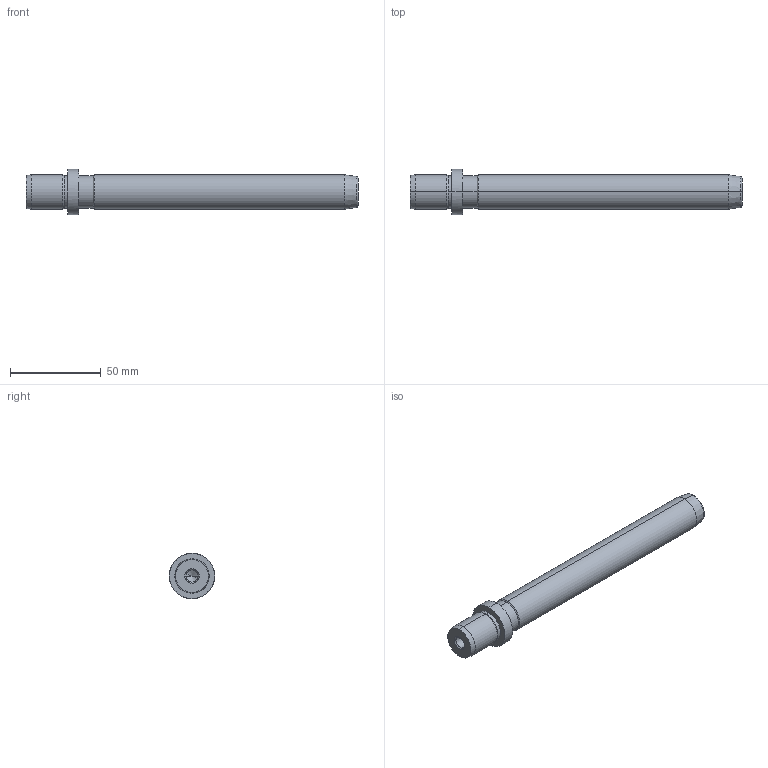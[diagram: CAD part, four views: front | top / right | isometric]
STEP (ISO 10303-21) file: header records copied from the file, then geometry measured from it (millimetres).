
FILE_DESCRIPTION(('CATIA V5 STEP Exchange'),'2;1');
FILE_NAME('C:\Users\Utente\Desktop\IO LAVORO\3D X SITO CF\X SITO\719\719-19x160.stp','2021-01-03T18:03:25+00:00',('none'),('none'),'CATIA Version 5 Release 20 GA (IN-10)','CATIA V5 STEP AP203','none');
FILE_SCHEMA(('CONFIG_CONTROL_DESIGN'));
Length unit declared in the file: millimetre
Products named in the file (1): 719-19x160
Bounding box: 183 x 25 x 25 mm (x, y, z)
Volume: 50826.6 mm3; surface area: 12936.6 mm2
Topology: 1 solids, 1 shells, 36 faces, 100 edges, 66 vertices
Faces by surface type: cone 16, cylinder 14, plane 4, torus 2
Entity records: 1255 total; most frequent: CARTESIAN_POINT 322, ORIENTED_EDGE 192, DIRECTION 159, EDGE_CURVE 96, AXIS2_PLACEMENT_3D 94, VERTEX_POINT 66, CIRCLE 57, EDGE_LOOP 40
